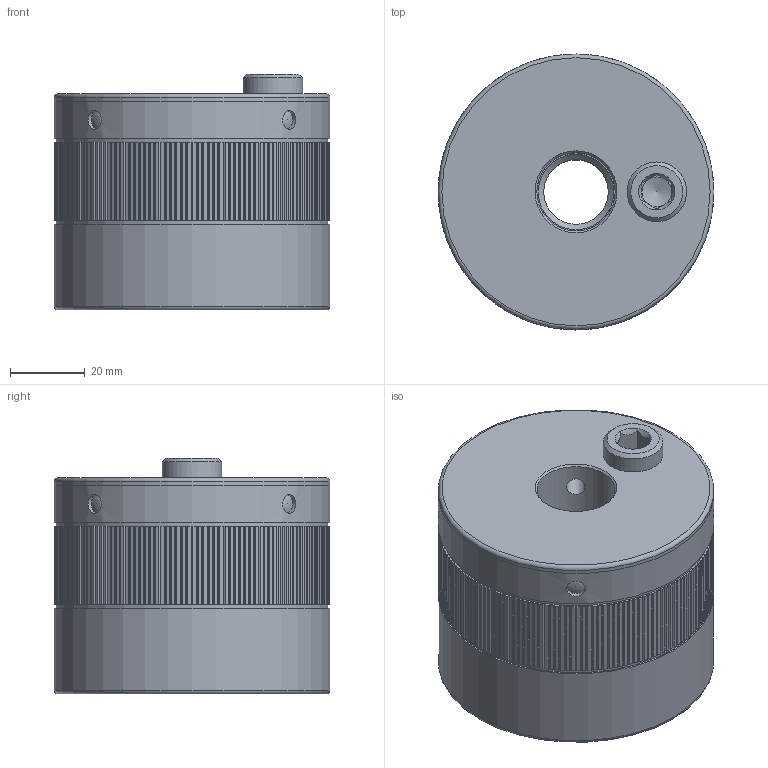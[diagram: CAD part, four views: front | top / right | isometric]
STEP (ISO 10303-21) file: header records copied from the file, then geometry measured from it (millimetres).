
FILE_DESCRIPTION(/* description */ ('Unknown','CAx-IF Rec.Pracs.---Representation and Presentation of Product Manufacturing Information (PMI)---4.0---2014-10-13','CAx-IF Rec.Pracs.---3D Tessellated Geometry---0.4---2014-09-14','2;1'),/* implementation_level */ '2;1');
FILE_NAME(/* name */ 'MDA 60_SW8_M20',/* time_stamp */ '2023-09-15T11:19:28+02:00',/* author */ ('Unknown'),/* organization */ ('Unknown'),/* preprocessor_version */ 'ST-DEVELOPER v18.102',/* originating_system */ 'Solid Edge',/* authorisation */ 'Unknown');
FILE_SCHEMA (('AP242_MANAGED_MODEL_BASED_3D_ENGINEERING_MIM_LF { 1 0 10303 442 1 1 4 }'));
Length unit declared in the file: millimetre
Products named in the file (7): 05933088; 43733042; kt101323; 46331263; 42231968; KT100075; 46431967
Assembly tree (9 placements, depth 2):
  05933088
    43733042
    kt101323
    46331263
    42231968
    KT100075  x4
    46431967
Bounding box: 74 x 74 x 63.3 mm (x, y, z)
Volume: 218843.3 mm3; surface area: 76677.6 mm2
Topology: 9 solids, 9 shells, 602 faces, 1715 edges, 1134 vertices
Faces by surface type: plane 354, cylinder 199, cone 26, torus 9, sphere 8, bspline 6
Full cylindrical faces by diameter (mm): 1.6 x1, 5 x12, 8 x1, 16 x2, 16.5 x1, 17.294 x1, 21 x1, 38 x3, 56.2 x1, 60.7 x1, 62 x1, 66.7 x1, 66.9 x1, 67 x3, 73 x2, 74 x3
Entity records: 19567 total; most frequent: CARTESIAN_POINT 3888, ORIENTED_EDGE 3172, DIRECTION 3150, EDGE_CURVE 1586, LINE 1142, VECTOR 1142, VERTEX_POINT 1092, AXIS2_PLACEMENT_3D 1004
